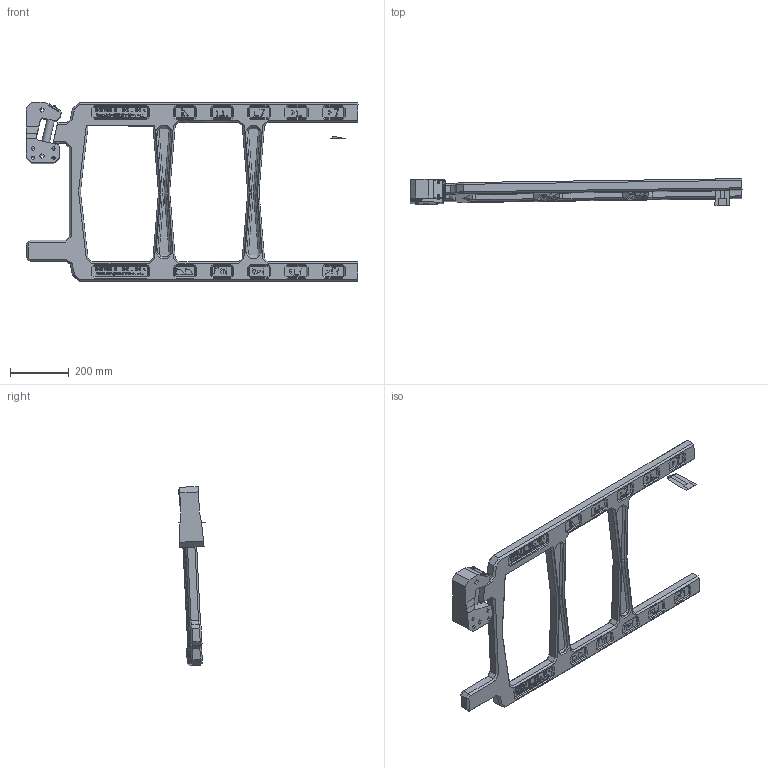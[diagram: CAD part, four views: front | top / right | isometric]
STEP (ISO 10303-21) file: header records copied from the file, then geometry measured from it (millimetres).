
FILE_DESCRIPTION(/* description */ (''),/* implementation_level */ '2;1');
FILE_NAME(/* name */ 'UDG-37 Only',/* time_stamp */ '2013-09-17T17:17:34-05:00',/* author */ (''),/* organization */ (''),/* preprocessor_version */ 'ST-DEVELOPER v10',/* originating_system */ '',/* authorisation */ '');
FILE_SCHEMA (('CONFIG_CONTROL_DESIGN'));
Products named in the file (1): 1
Bounding box: 1133.41 x 95.25 x 612.04 mm (x, y, z)
Volume: 1369740.2 mm3; surface area: 962182.6 mm2
Topology: 239 solids, 244 shells, 3246 faces, 7664 edges, 4925 vertices
Faces by surface type: bspline 2185, plane 1061
Entity records: 125075 total; most frequent: CARTESIAN_POINT 75122, ORIENTED_EDGE 15280, EDGE_CURVE 7656, B_SPLINE_CURVE_WITH_KNOTS 6539, VERTEX_POINT 4923, EDGE_LOOP 3427, ADVANCED_FACE 3243, FACE_OUTER_BOUND 3243
